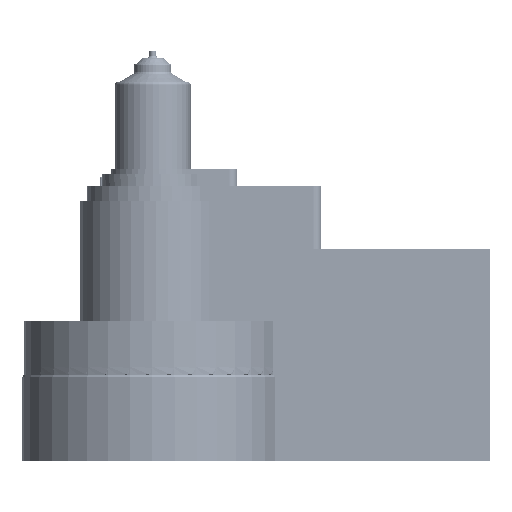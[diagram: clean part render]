
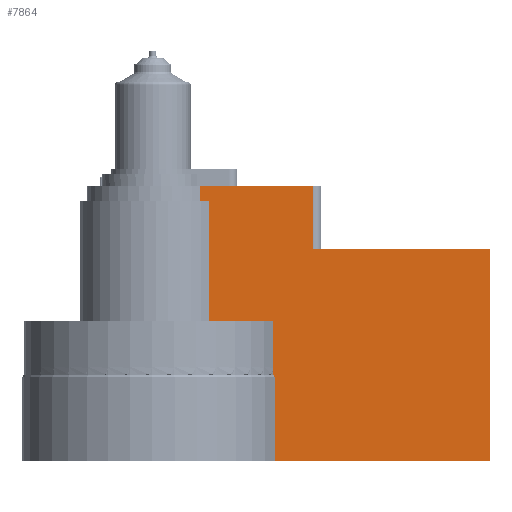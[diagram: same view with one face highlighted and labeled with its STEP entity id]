
A CAD part, front view. The second image highlights one B-rep face of the part: STEP entity #7864.
In plain terms, the highlighted planar face has unit normal (0, -1, 0).
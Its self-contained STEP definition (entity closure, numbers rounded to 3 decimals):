
#803 = CARTESIAN_POINT ( 'NONE',  ( 72.194, -27., -113. ) ) ;
#1169 = CARTESIAN_POINT ( 'NONE',  ( 200., -27., -163. ) ) ;
#1956 = CARTESIAN_POINT ( 'NONE',  ( 200., -27., -163. ) ) ;
#3413 = ORIENTED_EDGE ( 'NONE', *, *, #91257, .F. ) ;
#6046 = CARTESIAN_POINT ( 'NONE',  ( 71.577, -27., -112. ) ) ;
#7864 = ADVANCED_FACE ( 'NONE', ( #119458 ), #17415, .F. ) ;
#8613 = VERTEX_POINT ( 'NONE', #70219 ) ;
#10780 = CARTESIAN_POINT ( 'NONE',  ( 95., -27., 89.886 ) ) ;
#12297 = LINE ( 'NONE', #15993, #76994 ) ;
#12386 = LINE ( 'NONE', #23428, #94133 ) ;
#14747 = VECTOR ( 'NONE', #28523, 1000. ) ;
#15993 = CARTESIAN_POINT ( 'NONE',  ( 28.142, -27., 0. ) ) ;
#16825 = EDGE_CURVE ( 'NONE', #60508, #66976, #124299, .T. ) ;
#17415 = PLANE ( 'NONE',  #38948 ) ;
#21645 = EDGE_CURVE ( 'NONE', #134698, #125568, #24387, .T. ) ;
#23428 = CARTESIAN_POINT ( 'NONE',  ( 0., -27., -113. ) ) ;
#24387 = LINE ( 'NONE', #115394, #56780 ) ;
#25751 = EDGE_CURVE ( 'NONE', #36734, #130576, #78339, .T. ) ;
#26135 = EDGE_CURVE ( 'NONE', #106046, #40071, #44130, .T. ) ;
#26971 = VECTOR ( 'NONE', #101590, 1000. ) ;
#27049 = ORIENTED_EDGE ( 'NONE', *, *, #21645, .T. ) ;
#28523 = DIRECTION ( 'NONE',  ( -1., 0., 0. ) ) ;
#31824 = EDGE_CURVE ( 'NONE', #35340, #125568, #140592, .T. ) ;
#35340 = VERTEX_POINT ( 'NONE', #86127 ) ;
#36054 = LINE ( 'NONE', #65867, #119388 ) ;
#36148 = LINE ( 'NONE', #1956, #53250 ) ;
#36334 = ORIENTED_EDGE ( 'NONE', *, *, #140925, .F. ) ;
#36485 = CARTESIAN_POINT ( 'NONE',  ( 71.577, -27., -112. ) ) ;
#36734 = VERTEX_POINT ( 'NONE', #36485 ) ;
#38948 = AXIS2_PLACEMENT_3D ( 'NONE', #72655, #39319, #93547 ) ;
#39319 = DIRECTION ( 'NONE',  ( 0., 1., 0. ) ) ;
#40071 = VERTEX_POINT ( 'NONE', #77356 ) ;
#40144 = VERTEX_POINT ( 'NONE', #78754 ) ;
#43043 = CARTESIAN_POINT ( 'NONE',  ( 28.142, -27., 0. ) ) ;
#44130 = LINE ( 'NONE', #134173, #108778 ) ;
#44759 = VECTOR ( 'NONE', #131847, 1000. ) ;
#48399 = CARTESIAN_POINT ( 'NONE',  ( 71.783, -27., -112.333 ) ) ;
#50225 = ORIENTED_EDGE ( 'NONE', *, *, #16825, .F. ) ;
#50258 = DIRECTION ( 'NONE',  ( 1., 0., 0. ) ) ;
#51005 = DIRECTION ( 'NONE',  ( 0., 0., -1. ) ) ;
#52599 = LINE ( 'NONE', #82379, #135792 ) ;
#53250 = VECTOR ( 'NONE', #122200, 1000. ) ;
#53596 = EDGE_CURVE ( 'NONE', #36734, #106046, #61875, .T. ) ;
#55874 = CARTESIAN_POINT ( 'NONE',  ( 200., -27., -37. ) ) ;
#56290 = ORIENTED_EDGE ( 'NONE', *, *, #85075, .F. ) ;
#56494 = CARTESIAN_POINT ( 'NONE',  ( 72.645, -27., -113. ) ) ;
#56780 = VECTOR ( 'NONE', #63607, 1000. ) ;
#57033 = VERTEX_POINT ( 'NONE', #55874 ) ;
#60508 = VERTEX_POINT ( 'NONE', #84609 ) ;
#61048 = EDGE_CURVE ( 'NONE', #57033, #8613, #36054, .T. ) ;
#61862 = CARTESIAN_POINT ( 'NONE',  ( 0., -27., -9. ) ) ;
#61875 = LINE ( 'NONE', #68681, #44759 ) ;
#62669 = DIRECTION ( 'NONE',  ( 0., 0., 1. ) ) ;
#63607 = DIRECTION ( 'NONE',  ( 0., 0., -1. ) ) ;
#65867 = CARTESIAN_POINT ( 'NONE',  ( 200., -27., -37. ) ) ;
#66976 = VERTEX_POINT ( 'NONE', #56494 ) ;
#68681 = CARTESIAN_POINT ( 'NONE',  ( 71.577, -27., 34.716 ) ) ;
#69090 = ORIENTED_EDGE ( 'NONE', *, *, #120219, .F. ) ;
#70219 = CARTESIAN_POINT ( 'NONE',  ( 95., -27., -37. ) ) ;
#71640 = EDGE_CURVE ( 'NONE', #57033, #137359, #52599, .T. ) ;
#72655 = CARTESIAN_POINT ( 'NONE',  ( 200., -27., -37. ) ) ;
#74089 = CARTESIAN_POINT ( 'NONE',  ( 71.577, -27., -80. ) ) ;
#76994 = VECTOR ( 'NONE', #50258, 1000. ) ;
#77179 = LINE ( 'NONE', #86348, #99264 ) ;
#77317 = ORIENTED_EDGE ( 'NONE', *, *, #53596, .F. ) ;
#77356 = CARTESIAN_POINT ( 'NONE',  ( 33.466, -27., -80. ) ) ;
#78339 = B_SPLINE_CURVE_WITH_KNOTS ( 'NONE', 3,
 ( #6046, #48399, #91196, #102580 ),
 .UNSPECIFIED., .F., .F.,
 ( 4, 4 ),
 ( 0., 0.001 ),
 .UNSPECIFIED. ) ;
#78754 = CARTESIAN_POINT ( 'NONE',  ( 95., -27., 0. ) ) ;
#79637 = DIRECTION ( 'NONE',  ( -1., 0., 0. ) ) ;
#80877 = CARTESIAN_POINT ( 'NONE',  ( 28.142, -27., -9. ) ) ;
#82379 = CARTESIAN_POINT ( 'NONE',  ( 200., -27., -37. ) ) ;
#84271 = ORIENTED_EDGE ( 'NONE', *, *, #61048, .T. ) ;
#84609 = CARTESIAN_POINT ( 'NONE',  ( 72.645, -27., -163. ) ) ;
#84688 = CARTESIAN_POINT ( 'NONE',  ( 72.645, -27., 34.716 ) ) ;
#85075 = EDGE_CURVE ( 'NONE', #40071, #35340, #77179, .T. ) ;
#86127 = CARTESIAN_POINT ( 'NONE',  ( 33.466, -27., -9. ) ) ;
#86348 = CARTESIAN_POINT ( 'NONE',  ( 33.466, -27., 34.716 ) ) ;
#86609 = LINE ( 'NONE', #10780, #26971 ) ;
#91196 = CARTESIAN_POINT ( 'NONE',  ( 71.988, -27., -112.667 ) ) ;
#91257 = EDGE_CURVE ( 'NONE', #66976, #130576, #12386, .T. ) ;
#91460 = ORIENTED_EDGE ( 'NONE', *, *, #71640, .F. ) ;
#93547 = DIRECTION ( 'NONE',  ( 0., 0., 1. ) ) ;
#94133 = VECTOR ( 'NONE', #121350, 1000. ) ;
#95452 = VECTOR ( 'NONE', #139225, 1000. ) ;
#98617 = DIRECTION ( 'NONE',  ( -1., 0., 0. ) ) ;
#99264 = VECTOR ( 'NONE', #62669, 1000. ) ;
#101590 = DIRECTION ( 'NONE',  ( 0., 0., -1. ) ) ;
#102580 = CARTESIAN_POINT ( 'NONE',  ( 72.194, -27., -113. ) ) ;
#103694 = ORIENTED_EDGE ( 'NONE', *, *, #26135, .F. ) ;
#106046 = VERTEX_POINT ( 'NONE', #74089 ) ;
#108778 = VECTOR ( 'NONE', #79637, 1000. ) ;
#109564 = ORIENTED_EDGE ( 'NONE', *, *, #120793, .F. ) ;
#115394 = CARTESIAN_POINT ( 'NONE',  ( 28.142, -27., 89.886 ) ) ;
#119388 = VECTOR ( 'NONE', #98617, 1000. ) ;
#119458 = FACE_OUTER_BOUND ( 'NONE', #127488, .T. ) ;
#120219 = EDGE_CURVE ( 'NONE', #137359, #60508, #36148, .T. ) ;
#120793 = EDGE_CURVE ( 'NONE', #134698, #40144, #12297, .T. ) ;
#121350 = DIRECTION ( 'NONE',  ( -1., 0., 0. ) ) ;
#122200 = DIRECTION ( 'NONE',  ( -1., 0., 0. ) ) ;
#123002 = ORIENTED_EDGE ( 'NONE', *, *, #31824, .F. ) ;
#124299 = LINE ( 'NONE', #84688, #95452 ) ;
#125568 = VERTEX_POINT ( 'NONE', #80877 ) ;
#127488 = EDGE_LOOP ( 'NONE', ( #77317, #127909, #3413, #50225, #69090, #91460, #84271, #36334, #109564, #27049, #123002, #56290, #103694 ) ) ;
#127909 = ORIENTED_EDGE ( 'NONE', *, *, #25751, .T. ) ;
#130576 = VERTEX_POINT ( 'NONE', #803 ) ;
#131847 = DIRECTION ( 'NONE',  ( 0., 0., 1. ) ) ;
#134173 = CARTESIAN_POINT ( 'NONE',  ( 0., -27., -80. ) ) ;
#134698 = VERTEX_POINT ( 'NONE', #43043 ) ;
#135792 = VECTOR ( 'NONE', #51005, 1000. ) ;
#137359 = VERTEX_POINT ( 'NONE', #1169 ) ;
#139225 = DIRECTION ( 'NONE',  ( 0., 0., 1. ) ) ;
#140592 = LINE ( 'NONE', #61862, #14747 ) ;
#140925 = EDGE_CURVE ( 'NONE', #40144, #8613, #86609, .T. ) ;
